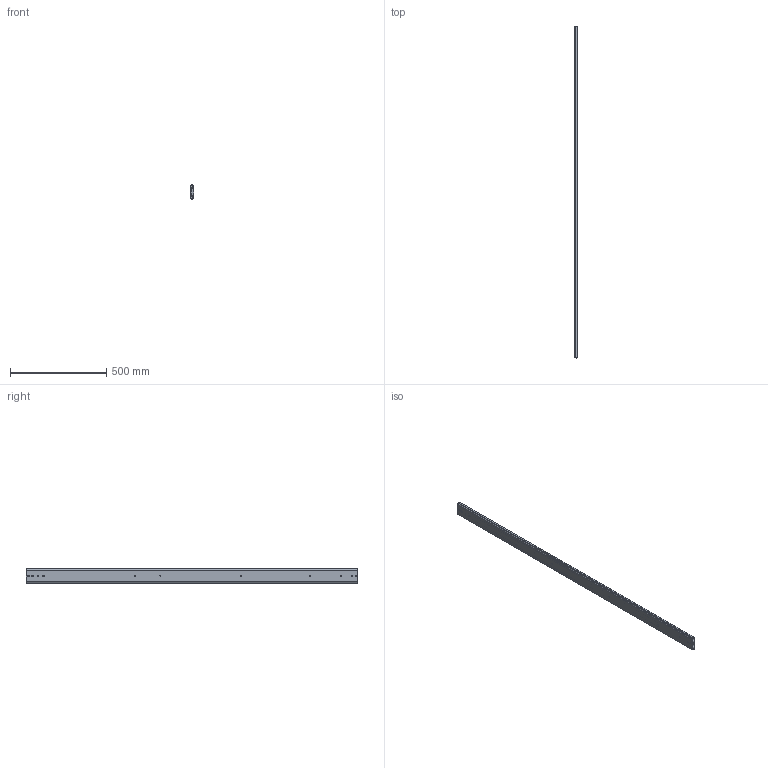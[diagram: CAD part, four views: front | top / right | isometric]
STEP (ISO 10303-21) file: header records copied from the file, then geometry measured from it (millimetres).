
FILE_DESCRIPTION(/* description */ ('Unknown'),/* implementation_level */ '2;1');
FILE_NAME(/* name */ '76J01-68 close',/* time_stamp */ '2024-07-30T14:46:49+08:00',/* author */ ('Unknown'),/* organization */ ('Unknown'),/* preprocessor_version */ 'ST-DEVELOPER v18.104',/* originating_system */ 'Solid Edge',/* authorisation */ 'Unknown');
FILE_SCHEMA (('AUTOMOTIVE_DESIGN {1 0 10303 214 3 1 1}'));
Length unit declared in the file: millimetre
Products named in the file (4): 76J01-68 close; 76J01 68 inch 內; 76J01 68 吋
Assembly tree (3 placements, depth 2):
  76J01-68 close
    76J01 68 inch 內
    76J01 68 吋
    76J01 68 吋
Bounding box: 19.3 x 1727.2 x 76.76 mm (x, y, z)
Volume: 1367665.3 mm3; surface area: 849735.9 mm2
Topology: 3 solids, 3 shells, 196 faces, 606 edges, 410 vertices
Faces by surface type: plane 104, cylinder 92
Full cylindrical faces by diameter (mm): 5.2 x16, 7.1 x2
Entity records: 7179 total; most frequent: CARTESIAN_POINT 1168, DIRECTION 1152, ORIENTED_EDGE 1140, EDGE_CURVE 570, VERTEX_POINT 392, LINE 384, VECTOR 384, AXIS2_PLACEMENT_3D 384
